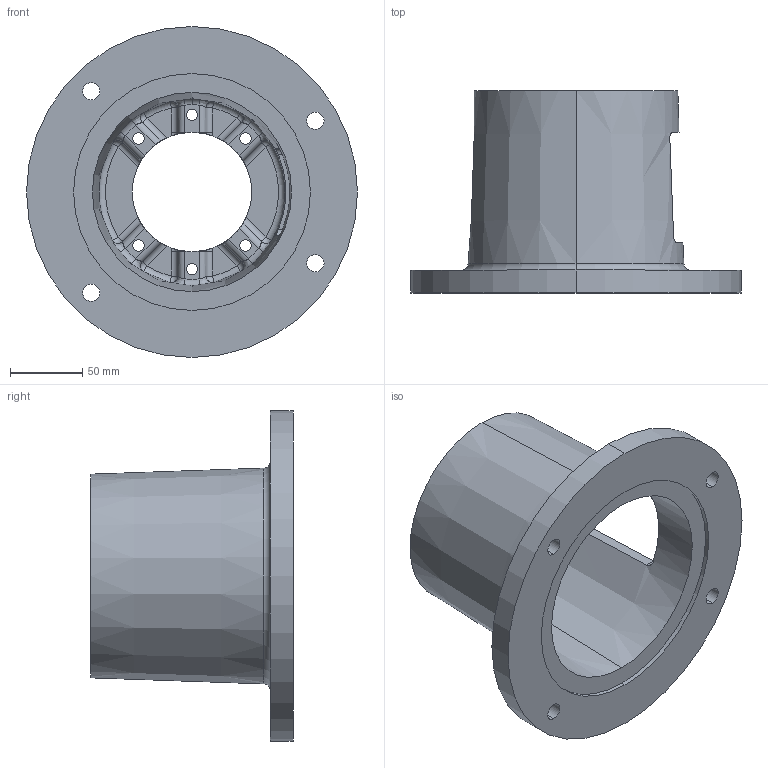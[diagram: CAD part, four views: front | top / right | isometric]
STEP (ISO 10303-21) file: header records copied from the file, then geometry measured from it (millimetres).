
FILE_DESCRIPTION (( 'STEP AP203' ), '1' );
FILE_NAME ('E700552A.STEP', '2014-11-04T13:00:36', ( '' ), ( '' ), 'SwSTEP 2.0', 'SolidWorks 2014', '' );
FILE_SCHEMA (( 'CONFIG_CONTROL_DESIGN' ));
Length unit declared in the file: inch
Products named in the file (1): E700552A
Bounding box: 228.6 x 139.7 x 228.6 mm (x, y, z)
Volume: 781804.7 mm3; surface area: 189638.1 mm2
Topology: 1 solids, 1 shells, 153 faces, 388 edges, 227 vertices
Faces by surface type: cylinder 58, plane 32, bspline 24, torus 23, sphere 12, cone 4
Entity records: 6533 total; most frequent: CARTESIAN_POINT 2915, ORIENTED_EDGE 752, DIRECTION 742, EDGE_CURVE 376, AXIS2_PLACEMENT_3D 320, VERTEX_POINT 227, CIRCLE 190, EDGE_LOOP 179
